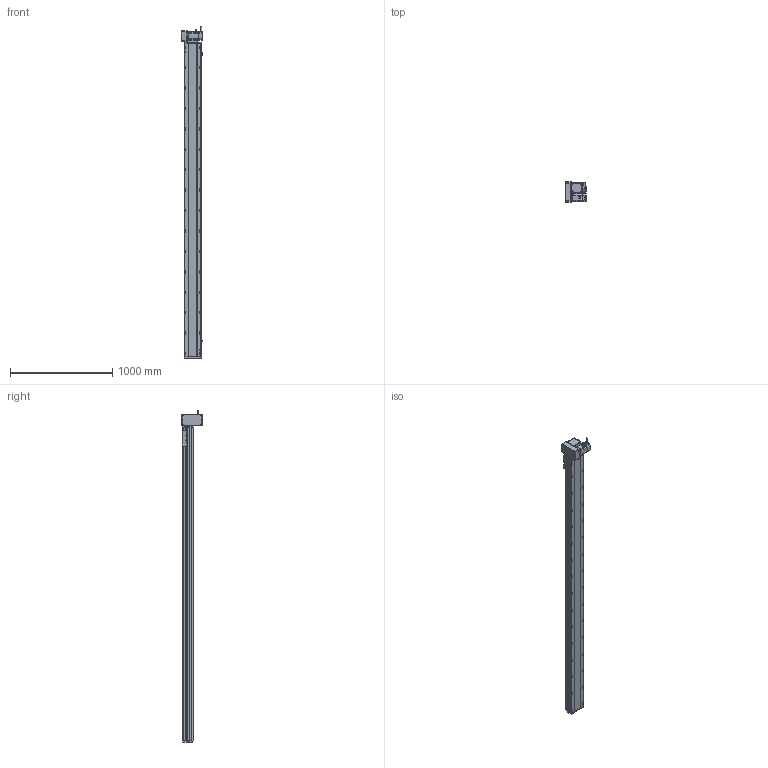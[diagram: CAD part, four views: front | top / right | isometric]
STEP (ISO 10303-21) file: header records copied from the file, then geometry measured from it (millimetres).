
FILE_DESCRIPTION (( 'STEP AP214' ), '1' );
FILE_NAME ('RTB17S-XX-2800-LM-M75-C4.STEP', '2025-12-12T00:48:32', ( '' ), ( '' ), 'SwSTEP 2.0', 'SolidWorks 2018', '' );
FILE_SCHEMA (( 'AUTOMOTIVE_DESIGN' ));
Length unit declared in the file: millimetre
Products named in the file (15): 750W萇儂^RTB17S-XX-XX-LM-M75-C4; RTB17S-LM-々湍釱蚾饜-750W^RTB17S-XX-XX-LM-M75-C4; RTB17-R-011菁釱^RTB17S-XX-XX-LM-M75-C4; RTB17S-L-007奻裔^RTB17S-XX-XX-LM-M75-C4; RTB22S-GY-018P^RTB17S-LM-々湍釱蚾饜-750W_RTB17S-XX-XX-LM-M75-C4; RTB17S-L-001-耜醱啣^RTB17S-XX-XX-LM-M75-C4; RTB22S-GY-005P^RTB17S-LM-々湍釱蚾饜-750W_RTB17S-XX-XX-LM-M75-C4; RTB17S-L-004-賑釱^RTB17S-賑釱_RTB17S-XX-XX-LM-M75-C4; EE672^RTB17S-XX-XX-LM-M75-C4; RTH13-BL-012覜茼え俋离^RTB17S-賑釱_RTB17S-XX-XX-LM-M75-C4; RTB17S-L-014-T20-P75--々湍釱^RTB17S-LM-々湍釱蚾饜-750W_RTB17S-XX-XX-LM-M75-C4; RTB17S-XX-2800-LM-M75-C4; RTB22S-GY-008-M75--萇儂啣^RTB17S-LM-々湍釱蚾饜-750W_RTB17S-XX-XX-LM-M75-C4; RTB17S-賑釱^RTB17S-XX-XX-LM-M75-C4; RTB22S-GY-017P^RTB17S-LM-々湍釱蚾饜-750W_RTB17S-XX-XX-LM-M75-C4
Assembly tree (17 placements, depth 3):
  RTB17S-XX-2800-LM-M75-C4
    RTB17-R-011菁釱^RTB17S-XX-XX-LM-M75-C4
    EE672^RTB17S-XX-XX-LM-M75-C4  x3
    RTB17S-L-001-耜醱啣^RTB17S-XX-XX-LM-M75-C4
    RTB17S-賑釱^RTB17S-XX-XX-LM-M75-C4
      RTB17S-L-004-賑釱^RTB17S-賑釱_RTB17S-XX-XX-LM-M75-C4
      RTH13-BL-012覜茼え俋离^RTB17S-賑釱_RTB17S-XX-XX-LM-M75-C4
    RTB17S-L-007奻裔^RTB17S-XX-XX-LM-M75-C4
    750W萇儂^RTB17S-XX-XX-LM-M75-C4
    RTB17S-LM-々湍釱蚾饜-750W^RTB17S-XX-XX-LM-M75-C4
      RTB17S-L-014-T20-P75--々湍釱^RTB17S-LM-々湍釱蚾饜-750W_RTB17S-XX-XX-LM-M75-C4
      RTB22S-GY-005P^RTB17S-LM-々湍釱蚾饜-750W_RTB17S-XX-XX-LM-M75-C4
      RTB22S-GY-017P^RTB17S-LM-々湍釱蚾饜-750W_RTB17S-XX-XX-LM-M75-C4  x2
      RTB22S-GY-008-M75--萇儂啣^RTB17S-LM-々湍釱蚾饜-750W_RTB17S-XX-XX-LM-M75-C4
      RTB22S-GY-018P^RTB17S-LM-々湍釱蚾饜-750W_RTB17S-XX-XX-LM-M75-C4
Bounding box: 210.4 x 200 x 3252.2 mm (x, y, z)
Volume: 23455846.1 mm3; surface area: 4281012.3 mm2
Topology: 17 solids, 17 shells, 2233 faces, 6268 edges, 4058 vertices
Faces by surface type: plane 988, cylinder 829, bspline 294, cone 110, sphere 8, torus 4
Entity records: 65014 total; most frequent: CARTESIAN_POINT 19332, ORIENTED_EDGE 9380, DIRECTION 8672, EDGE_CURVE 4690, AXIS2_PLACEMENT_3D 3078, VERTEX_POINT 3062, LINE 2516, VECTOR 2516
